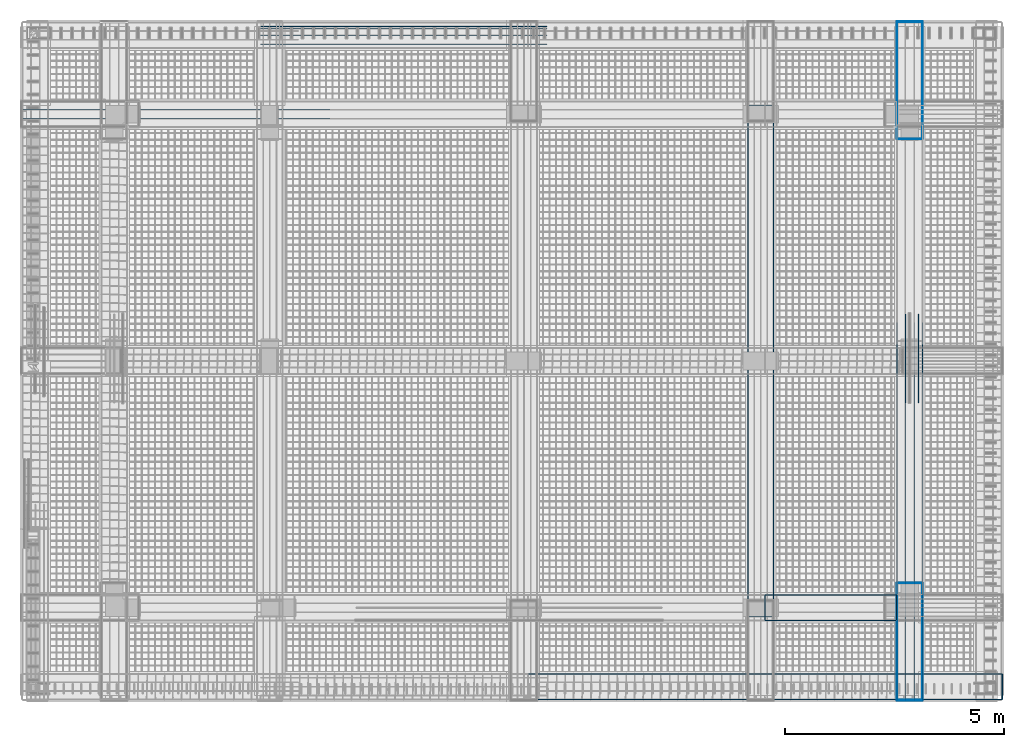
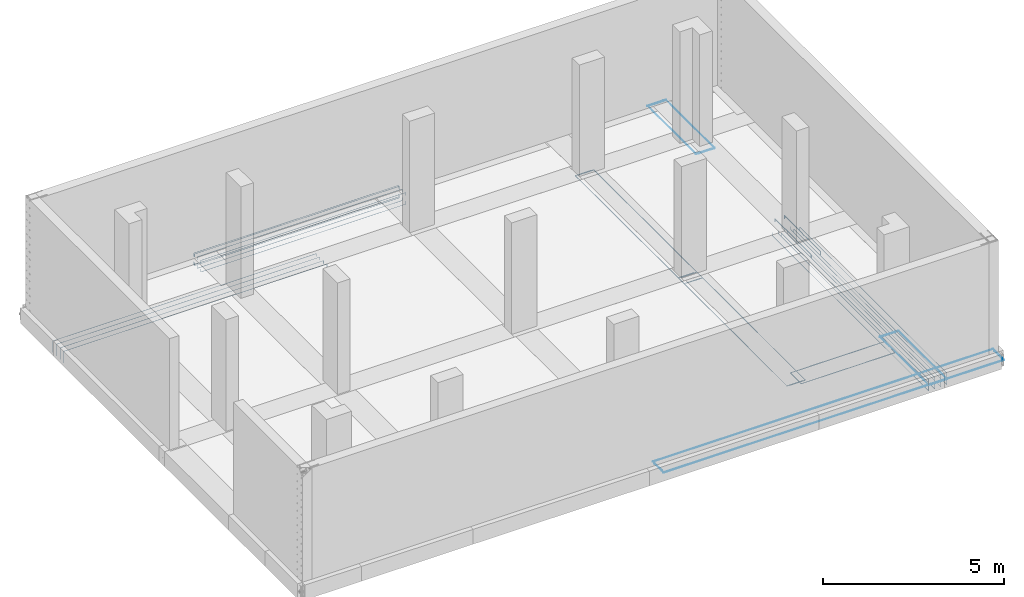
# One storey, part 7 of 9: 9 reinforcing bars.
"""IFC4 building model written with IfcOpenShell, lengths in metres."""

from ifc_helpers import new_model, entity, si_unit, origin_with_axes, place, context, project, spatial, source, transform, mapped, element, save


model = new_model("IFC4")

# Units and contexts
model_context = context("Model", 3, precision=1e-05, world=origin_with_axes())
ifc_project = project(units=[si_unit("LENGTHUNIT", "METRE"), si_unit("AREAUNIT", "SQUARE_METRE"), si_unit("VOLUMEUNIT", "CUBIC_METRE"), si_unit("MASSUNIT", "GRAM", prefix="KILO"), si_unit("TIMEUNIT", "SECOND"), si_unit("PLANEANGLEUNIT", "RADIAN"), si_unit("SOLIDANGLEUNIT", "STERADIAN"), si_unit("THERMODYNAMICTEMPERATUREUNIT", "DEGREE_CELSIUS")], contexts=[model_context])

# Site, building, storey
placement_1 = place(None, origin_with_axes())
site = spatial("IfcSite", under=ifc_project, at=placement_1, Name="Italia", CompositionType="ELEMENT")
building = spatial("IfcBuilding", under=site, at=placement_1, Name="Palazzina", CompositionType="ELEMENT")
storey = spatial("IfcBuildingStorey", under=building, at=placement_1, Name="Storey 0", CompositionType="ELEMENT", Elevation=0.0)

# Reinforcing bars
shared_shape_1 = source(origin_with_axes(), model_context, "Body", "AdvancedSweptSolid", [
    entity("IfcSweptDiskSolid", entity("IfcIndexedPolyCurve", entity("IfcCartesianPointList3D", [[9.64091, -1.806, -0.244], [9.64091, -1.316, -0.244], [9.64167, -1.31217, -0.244], [9.64384, -1.30893, -0.244], [9.64708, -1.30676, -0.244], [9.65091, -1.306, -0.244], [20.45, -1.306, -0.244], [20.4538, -1.30676, -0.244], [20.4571, -1.30893, -0.244], [20.4592, -1.31217, -0.244], [20.46, -1.316, -0.244], [20.46, -1.806, -0.244]]), [entity("IfcLineIndex", [1, 2]), entity("IfcLineIndex", [2, 3]), entity("IfcLineIndex", [3, 4]), entity("IfcLineIndex", [4, 5]), entity("IfcLineIndex", [5, 6]), entity("IfcLineIndex", [6, 7]), entity("IfcLineIndex", [7, 8]), entity("IfcLineIndex", [8, 9]), entity("IfcLineIndex", [9, 10]), entity("IfcLineIndex", [10, 11]), entity("IfcLineIndex", [11, 12])], False), 0.006),
])
placement_2 = place(placement_1, origin_with_axes())
reinforcing_bar_1_placement = place(placement_2, origin_with_axes())
element("IfcReinforcingBar", 1, at=reinforcing_bar_1_placement, inside=storey, BarLength=11.8103, CrossSectionArea=0.0001131, NominalDiameter=0.012, context=model_context, shape_type="MappedRepresentation", body=[
    mapped(shared_shape_1, transform((0.0, -3.2, -0.5), x_axis=(1.0, 0.0, 0.0), y_axis=(0.0, -1.0, 0.0), z_axis=(0.0, 0.0, -1.0), scale=1.0)),
    mapped(shared_shape_1, transform((0.0, 0.0, 0.0), x_axis=(1.0, 0.0, 0.0), y_axis=(0.0, 1.0, 0.0), z_axis=(0.0, 0.0, 1.0), scale=1.0)),
])
shared_shape_2 = source(origin_with_axes(), model_context, "Body", "AdvancedSweptSolid", [
    entity("IfcSweptDiskSolid", entity("IfcIndexedPolyCurve", entity("IfcCartesianPointList3D", [[15.05, -0.00600001, -0.244], [15.05, 0.484, -0.244], [15.0508, 0.487827, -0.244], [15.0529, 0.491071, -0.244], [15.0562, 0.493239, -0.244], [15.06, 0.494, -0.244], [18.04, 0.494, -0.244], [18.0438, 0.493239, -0.244], [18.0471, 0.491071, -0.244], [18.0492, 0.487827, -0.244], [18.05, 0.484, -0.244], [18.05, -0.00600001, -0.244]]), [entity("IfcLineIndex", [1, 2]), entity("IfcLineIndex", [2, 3]), entity("IfcLineIndex", [3, 4]), entity("IfcLineIndex", [4, 5]), entity("IfcLineIndex", [5, 6]), entity("IfcLineIndex", [6, 7]), entity("IfcLineIndex", [7, 8]), entity("IfcLineIndex", [8, 9]), entity("IfcLineIndex", [9, 10]), entity("IfcLineIndex", [10, 11]), entity("IfcLineIndex", [11, 12])], False), 0.006),
])
reinforcing_bar_2_placement = place(placement_2, origin_with_axes())
element("IfcReinforcingBar", 2, at=reinforcing_bar_2_placement, inside=storey, BarLength=3.99121, CrossSectionArea=0.0001131, NominalDiameter=0.012, context=model_context, shape_type="MappedRepresentation", body=[
    mapped(shared_shape_2, transform((0.0, 0.4, -0.5), x_axis=(1.0, 0.0, 0.0), y_axis=(0.0, -1.0, 0.0), z_axis=(0.0, 0.0, -1.0), scale=1.0)),
    mapped(shared_shape_2, transform((0.0, 0.0, 0.0), x_axis=(1.0, 0.0, 0.0), y_axis=(0.0, 1.0, 0.0), z_axis=(0.0, 0.0, 1.0), scale=1.0)),
])
shared_shape_3 = source(origin_with_axes(), model_context, "Body", "AdvancedSweptSolid", [
    entity("IfcSweptDiskSolid", entity("IfcIndexedPolyCurve", entity("IfcCartesianPointList3D", [[-1.91, 11.168, -0.444], [-1.91, 11.168, -0.066], [-1.90924, 11.168, -0.0621732], [-1.90707, 11.168, -0.0589289], [-1.90383, 11.168, -0.0567612], [-1.9, 11.168, -0.056], [6.04618, 11.168, -0.056], [6.462, 11.168, -0.056], [6.46583, 11.168, -0.0567612], [6.46907, 11.168, -0.0589289], [6.47124, 11.168, -0.0621732], [6.472, 11.168, -0.066], [6.472, 11.168, -0.156]]), [entity("IfcLineIndex", [1, 2]), entity("IfcLineIndex", [2, 3]), entity("IfcLineIndex", [3, 4]), entity("IfcLineIndex", [4, 5]), entity("IfcLineIndex", [5, 6]), entity("IfcLineIndex", [6, 7]), entity("IfcLineIndex", [7, 8]), entity("IfcLineIndex", [8, 9]), entity("IfcLineIndex", [9, 10]), entity("IfcLineIndex", [10, 11]), entity("IfcLineIndex", [11, 12]), entity("IfcLineIndex", [12, 13])], False), 0.008),
])
reinforcing_bar_3_placement = place(placement_2, origin_with_axes())
element("IfcReinforcingBar", 3, at=reinforcing_bar_3_placement, inside=storey, BarLength=8.86121, CrossSectionArea=0.00020106, NominalDiameter=0.016, context=model_context, shape_type="MappedRepresentation", body=[
    mapped(shared_shape_3, transform((0.0, 0.584001, 0.0), x_axis=(1.0, 0.0, 0.0), y_axis=(0.0, 1.0, 0.0), z_axis=(0.0, 0.0, 1.0), scale=1.0)),
    mapped(shared_shape_3, transform((0.0, 0.0, 0.0), x_axis=(1.0, 0.0, 0.0), y_axis=(0.0, 1.0, 0.0), z_axis=(0.0, 0.0, 1.0), scale=1.0)),
    mapped(shared_shape_3, transform((0.0, 0.392, 0.0), x_axis=(1.0, 0.0, 0.0), y_axis=(0.0, 1.0, 0.0), z_axis=(0.0, 0.0, 1.0), scale=1.0)),
    mapped(shared_shape_3, transform((0.0, 0.192, 0.0), x_axis=(1.0, 0.0, 0.0), y_axis=(0.0, 1.0, 0.0), z_axis=(0.0, 0.0, 1.0), scale=1.0)),
])
shared_shape_4 = source(origin_with_axes(), model_context, "Body", "AdvancedSweptSolid", [
    entity("IfcSweptDiskSolid", entity("IfcIndexedPolyCurve", entity("IfcCartesianPointList3D", [[3.54918, 13.46, -0.344], [3.54918, 13.46, -0.434], [3.54994, 13.46, -0.437827], [3.55211, 13.46, -0.441071], [3.55536, 13.46, -0.443239], [3.55918, 13.46, -0.444], [3.975, 13.46, -0.444], [9.64091, 13.46, -0.444], [10.0567, 13.46, -0.444], [10.0606, 13.46, -0.443239], [10.0638, 13.46, -0.441071], [10.066, 13.46, -0.437827], [10.0667, 13.46, -0.434], [10.0667, 13.46, -0.344]]), [entity("IfcLineIndex", [1, 2]), entity("IfcLineIndex", [2, 3]), entity("IfcLineIndex", [3, 4]), entity("IfcLineIndex", [4, 5]), entity("IfcLineIndex", [5, 6]), entity("IfcLineIndex", [6, 7]), entity("IfcLineIndex", [7, 8]), entity("IfcLineIndex", [8, 9]), entity("IfcLineIndex", [9, 10]), entity("IfcLineIndex", [10, 11]), entity("IfcLineIndex", [11, 12]), entity("IfcLineIndex", [12, 13]), entity("IfcLineIndex", [13, 14])], False), 0.008),
])
reinforcing_bar_4_placement = place(placement_2, origin_with_axes())
element("IfcReinforcingBar", 4, at=reinforcing_bar_4_placement, inside=storey, BarLength=6.70876, CrossSectionArea=0.00020106, NominalDiameter=0.016, context=model_context, shape_type="MappedRepresentation", body=[
    mapped(shared_shape_4, transform((0.0, 26.52, -0.5), x_axis=(1.0, 0.0, 0.0), y_axis=(0.0, -1.0, 0.0), z_axis=(0.0, 0.0, -1.0), scale=1.0)),
    mapped(shared_shape_4, transform((0.0, 26.92, -0.5), x_axis=(1.0, 0.0, 0.0), y_axis=(0.0, -1.0, 0.0), z_axis=(0.0, 0.0, -1.0), scale=1.0)),
    mapped(shared_shape_4, transform((0.0, 26.87, -0.5), x_axis=(1.0, 0.0, 0.0), y_axis=(0.0, -1.0, 0.0), z_axis=(0.0, 0.0, -1.0), scale=1.0)),
    mapped(shared_shape_4, transform((0.0, 26.72, -0.5), x_axis=(1.0, 0.0, 0.0), y_axis=(0.0, -1.0, 0.0), z_axis=(0.0, 0.0, -1.0), scale=1.0)),
    mapped(shared_shape_4, transform((0.0, -0.400002, 0.0), x_axis=(1.0, 0.0, 0.0), y_axis=(0.0, 1.0, 0.0), z_axis=(0.0, 0.0, 1.0), scale=1.0)),
    mapped(shared_shape_4, transform((0.0, 0.0, 0.0), x_axis=(1.0, 0.0, 0.0), y_axis=(0.0, 1.0, 0.0), z_axis=(0.0, 0.0, 1.0), scale=1.0)),
    mapped(shared_shape_4, transform((0.0, -0.0500011, 0.0), x_axis=(1.0, 0.0, 0.0), y_axis=(0.0, 1.0, 0.0), z_axis=(0.0, 0.0, 1.0), scale=1.0)),
    mapped(shared_shape_4, transform((0.0, -0.200001, 0.0), x_axis=(1.0, 0.0, 0.0), y_axis=(0.0, 1.0, 0.0), z_axis=(0.0, 0.0, 1.0), scale=1.0)),
])
shared_shape_5 = source(origin_with_axes(), model_context, "Body", "AdvancedSweptSolid", [
    entity("IfcSweptDiskSolid", entity("IfcIndexedPolyCurve", entity("IfcCartesianPointList3D", [[15.156, 5.67, -0.244], [14.666, 5.67, -0.244], [14.6622, 5.67076, -0.244], [14.6589, 5.67293, -0.244], [14.6568, 5.67617, -0.244], [14.656, 5.68, -0.244], [14.656, 11.65, -0.244], [14.6568, 11.6538, -0.244], [14.6589, 11.6571, -0.244], [14.6622, 11.6592, -0.244], [14.666, 11.66, -0.244], [15.156, 11.66, -0.244]]), [entity("IfcLineIndex", [1, 2]), entity("IfcLineIndex", [2, 3]), entity("IfcLineIndex", [3, 4]), entity("IfcLineIndex", [4, 5]), entity("IfcLineIndex", [5, 6]), entity("IfcLineIndex", [6, 7]), entity("IfcLineIndex", [7, 8]), entity("IfcLineIndex", [8, 9]), entity("IfcLineIndex", [9, 10]), entity("IfcLineIndex", [10, 11]), entity("IfcLineIndex", [11, 12])], False), 0.006),
])
reinforcing_bar_5_placement = place(placement_2, origin_with_axes())
element("IfcReinforcingBar", 5, at=reinforcing_bar_5_placement, inside=storey, BarLength=6.98121, CrossSectionArea=0.0001131, NominalDiameter=0.012, context=model_context, shape_type="MappedRepresentation", body=[
    mapped(shared_shape_5, transform((29.9, 0.0, -0.5), x_axis=(-1.0, 0.0, 0.0), y_axis=(0.0, 1.0, 0.0), z_axis=(0.0, 0.0, -1.0), scale=1.0)),
    mapped(shared_shape_5, transform((0.0, 0.0, 0.0), x_axis=(1.0, 0.0, 0.0), y_axis=(0.0, 1.0, 0.0), z_axis=(0.0, 0.0, 1.0), scale=1.0)),
    mapped(shared_shape_5, transform((29.9, -5.67, -0.5), x_axis=(-1.0, 0.0, 0.0), y_axis=(0.0, 1.0, 0.0), z_axis=(0.0, 0.0, -1.0), scale=1.0)),
    mapped(shared_shape_5, transform((0.0, -5.67, 0.0), x_axis=(1.0, 0.0, 0.0), y_axis=(0.0, 1.0, 0.0), z_axis=(0.0, 0.0, 1.0), scale=1.0)),
])
shared_shape_6 = source(origin_with_axes(), model_context, "Body", "AdvancedSweptSolid", [
    entity("IfcSweptDiskSolid", entity("IfcIndexedPolyCurve", entity("IfcCartesianPointList3D", [[18.642, -1.91, -0.056], [18.642, -1.91, -0.434], [18.642, -1.90924, -0.437827], [18.642, -1.90707, -0.441071], [18.642, -1.90383, -0.443239], [18.642, -1.9, -0.444], [18.642, 6.27618, -0.444], [18.642, 6.692, -0.444], [18.642, 6.69583, -0.443239], [18.642, 6.69907, -0.441071], [18.642, 6.70124, -0.437827], [18.642, 6.702, -0.434], [18.642, 6.702, -0.344]]), [entity("IfcLineIndex", [1, 2]), entity("IfcLineIndex", [2, 3]), entity("IfcLineIndex", [3, 4]), entity("IfcLineIndex", [4, 5]), entity("IfcLineIndex", [5, 6]), entity("IfcLineIndex", [6, 7]), entity("IfcLineIndex", [7, 8]), entity("IfcLineIndex", [8, 9]), entity("IfcLineIndex", [9, 10]), entity("IfcLineIndex", [10, 11]), entity("IfcLineIndex", [11, 12]), entity("IfcLineIndex", [12, 13])], False), 0.008),
])
reinforcing_bar_6_placement = place(placement_2, origin_with_axes())
element("IfcReinforcingBar", 6, at=reinforcing_bar_6_placement, inside=storey, BarLength=9.09121, CrossSectionArea=0.00020106, NominalDiameter=0.016, context=model_context, shape_type="MappedRepresentation", body=[
    mapped(shared_shape_6, transform((-0.584, 0.0, 0.0), x_axis=(1.0, 0.0, 0.0), y_axis=(0.0, 1.0, 0.0), z_axis=(0.0, 0.0, 1.0), scale=1.0)),
    mapped(shared_shape_6, transform((0.0, 0.0, 0.0), x_axis=(1.0, 0.0, 0.0), y_axis=(0.0, 1.0, 0.0), z_axis=(0.0, 0.0, 1.0), scale=1.0)),
    mapped(shared_shape_6, transform((-0.392, 0.0, 0.0), x_axis=(1.0, 0.0, 0.0), y_axis=(0.0, 1.0, 0.0), z_axis=(0.0, 0.0, 1.0), scale=1.0)),
    mapped(shared_shape_6, transform((-0.191999, 0.0, 0.0), x_axis=(1.0, 0.0, 0.0), y_axis=(0.0, 1.0, 0.0), z_axis=(0.0, 0.0, 1.0), scale=1.0)),
])
shared_shape_7 = source(origin_with_axes(), model_context, "Body", "AdvancedSweptSolid", [
    entity("IfcSweptDiskSolid", entity("IfcIndexedPolyCurve", entity("IfcCartesianPointList3D", [[18.642, -1.91, -0.444], [18.642, -1.91, -0.066], [18.642, -1.90924, -0.0621732], [18.642, -1.90707, -0.0589289], [18.642, -1.90383, -0.0567612], [18.642, -1.9, -0.056], [18.642, 5.77618, -0.056], [18.642, 6.192, -0.056], [18.642, 6.19583, -0.0567612], [18.642, 6.19907, -0.0589289], [18.642, 6.20124, -0.0621732], [18.642, 6.202, -0.066], [18.642, 6.202, -0.156]]), [entity("IfcLineIndex", [1, 2]), entity("IfcLineIndex", [2, 3]), entity("IfcLineIndex", [3, 4]), entity("IfcLineIndex", [4, 5]), entity("IfcLineIndex", [5, 6]), entity("IfcLineIndex", [6, 7]), entity("IfcLineIndex", [7, 8]), entity("IfcLineIndex", [8, 9]), entity("IfcLineIndex", [9, 10]), entity("IfcLineIndex", [10, 11]), entity("IfcLineIndex", [11, 12]), entity("IfcLineIndex", [12, 13])], False), 0.008),
])
reinforcing_bar_7_placement = place(placement_2, origin_with_axes())
element("IfcReinforcingBar", 7, at=reinforcing_bar_7_placement, inside=storey, BarLength=8.59121, CrossSectionArea=0.00020106, NominalDiameter=0.016, context=model_context, shape_type="MappedRepresentation", body=[
    mapped(shared_shape_7, transform((-0.584, 0.0, 0.0), x_axis=(1.0, 0.0, 0.0), y_axis=(0.0, 1.0, 0.0), z_axis=(0.0, 0.0, 1.0), scale=1.0)),
    mapped(shared_shape_7, transform((0.0, 0.0, 0.0), x_axis=(1.0, 0.0, 0.0), y_axis=(0.0, 1.0, 0.0), z_axis=(0.0, 0.0, 1.0), scale=1.0)),
    mapped(shared_shape_7, transform((-0.392, 0.0, 0.0), x_axis=(1.0, 0.0, 0.0), y_axis=(0.0, 1.0, 0.0), z_axis=(0.0, 0.0, 1.0), scale=1.0)),
    mapped(shared_shape_7, transform((-0.191999, 0.0, 0.0), x_axis=(1.0, 0.0, 0.0), y_axis=(0.0, 1.0, 0.0), z_axis=(0.0, 0.0, 1.0), scale=1.0)),
])
shared_shape_8 = source(origin_with_axes(), model_context, "Body", "AdvancedSweptSolid", [
    entity("IfcSweptDiskSolid", entity("IfcIndexedPolyCurve", entity("IfcCartesianPointList3D", [[18.55, 4.88727, -0.156], [18.55, 4.88727, -0.066], [18.55, 4.88803, -0.0621732], [18.55, 4.8902, -0.0589289], [18.55, 4.89344, -0.0567612], [18.55, 4.89727, -0.056], [18.55, 5.44454, -0.056], [18.55, 6.33, -0.056], [18.55, 6.87727, -0.056], [18.55, 6.8811, -0.0567612], [18.55, 6.88434, -0.0589289], [18.55, 6.88651, -0.0621732], [18.55, 6.88727, -0.066], [18.55, 6.88727, -0.156]]), [entity("IfcLineIndex", [1, 2]), entity("IfcLineIndex", [2, 3]), entity("IfcLineIndex", [3, 4]), entity("IfcLineIndex", [4, 5]), entity("IfcLineIndex", [5, 6]), entity("IfcLineIndex", [6, 7]), entity("IfcLineIndex", [7, 8]), entity("IfcLineIndex", [8, 9]), entity("IfcLineIndex", [9, 10]), entity("IfcLineIndex", [10, 11]), entity("IfcLineIndex", [11, 12]), entity("IfcLineIndex", [12, 13]), entity("IfcLineIndex", [13, 14])], False), 0.008),
])
reinforcing_bar_8_placement = place(placement_2, origin_with_axes())
element("IfcReinforcingBar", 8, at=reinforcing_bar_8_placement, inside=storey, BarLength=2.19121, CrossSectionArea=0.00020106, NominalDiameter=0.016, context=model_context, shape_type="MappedRepresentation", body=[
    mapped(shared_shape_8, transform((-0.300001, 0.0, 0.0), x_axis=(1.0, 0.0, 0.0), y_axis=(0.0, 1.0, 0.0), z_axis=(0.0, 0.0, 1.0), scale=1.0)),
    mapped(shared_shape_8, transform((0.0, 0.0, 0.0), x_axis=(1.0, 0.0, 0.0), y_axis=(0.0, 1.0, 0.0), z_axis=(0.0, 0.0, 1.0), scale=1.0)),
])
shared_shape_9 = source(origin_with_axes(), model_context, "Body", "AdvancedSweptSolid", [
    entity("IfcSweptDiskSolid", entity("IfcIndexedPolyCurve", entity("IfcCartesianPointList3D", [[18.556, -1.91, -0.244], [18.066, -1.91, -0.244], [18.0622, -1.90924, -0.244], [18.0589, -1.90707, -0.244], [18.0568, -1.90383, -0.244], [18.056, -1.9, -0.244], [18.056, 0.75, -0.244], [18.0568, 0.753827, -0.244], [18.0589, 0.757071, -0.244], [18.0622, 0.759239, -0.244], [18.066, 0.76, -0.244], [18.556, 0.76, -0.244]]), [entity("IfcLineIndex", [1, 2]), entity("IfcLineIndex", [2, 3]), entity("IfcLineIndex", [3, 4]), entity("IfcLineIndex", [4, 5]), entity("IfcLineIndex", [5, 6]), entity("IfcLineIndex", [6, 7]), entity("IfcLineIndex", [7, 8]), entity("IfcLineIndex", [8, 9]), entity("IfcLineIndex", [9, 10]), entity("IfcLineIndex", [10, 11]), entity("IfcLineIndex", [11, 12])], False), 0.006),
])
reinforcing_bar_9_placement = place(placement_2, origin_with_axes())
element("IfcReinforcingBar", 9, at=reinforcing_bar_9_placement, inside=storey, BarLength=3.66122, CrossSectionArea=0.0001131, NominalDiameter=0.012, context=model_context, shape_type="MappedRepresentation", body=[
    mapped(shared_shape_9, transform((36.7, 0.0, -0.5), x_axis=(-1.0, 0.0, 0.0), y_axis=(0.0, 1.0, 0.0), z_axis=(0.0, 0.0, -1.0), scale=1.0)),
    mapped(shared_shape_9, transform((0.0, 0.0, 0.0), x_axis=(1.0, 0.0, 0.0), y_axis=(0.0, 1.0, 0.0), z_axis=(0.0, 0.0, 1.0), scale=1.0)),
    mapped(shared_shape_9, transform((36.7, 12.81, -0.5), x_axis=(-1.0, 0.0, 0.0), y_axis=(0.0, 1.0, 0.0), z_axis=(0.0, 0.0, -1.0), scale=1.0)),
    mapped(shared_shape_9, transform((0.0, 12.81, 0.0), x_axis=(1.0, 0.0, 0.0), y_axis=(0.0, 1.0, 0.0), z_axis=(0.0, 0.0, 1.0), scale=1.0)),
])

save(model, "model.ifc")
